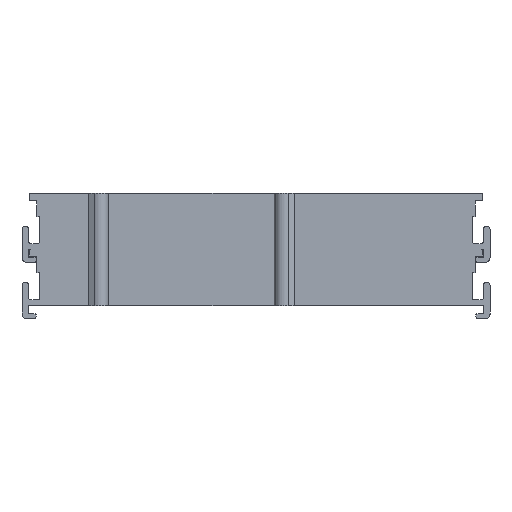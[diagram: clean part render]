
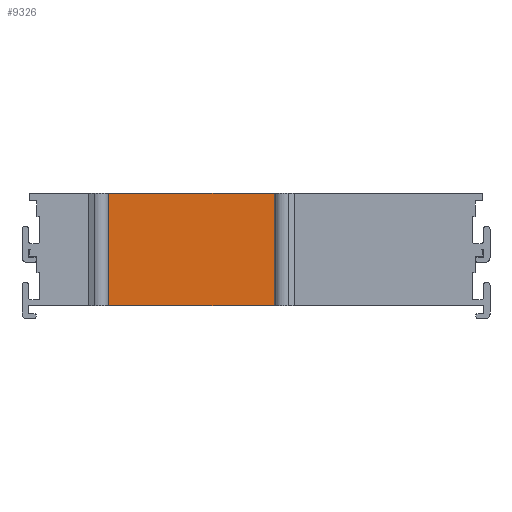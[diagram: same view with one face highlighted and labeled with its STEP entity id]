
A CAD part, front view. The second image highlights one B-rep face of the part: STEP entity #9326.
In plain terms, the highlighted planar face has unit normal (0, -1, 0).
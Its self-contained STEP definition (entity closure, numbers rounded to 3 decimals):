
#334=PLANE('',#10213);
#905=FACE_OUTER_BOUND('',#1419,.T.);
#1419=EDGE_LOOP('',(#8618,#8619,#8620,#8621));
#1775=LINE('',#14229,#2717);
#2055=LINE('',#15004,#2997);
#2361=LINE('',#15876,#3303);
#2362=LINE('',#15878,#3304);
#2717=VECTOR('',#11211,1.);
#2997=VECTOR('',#11967,1.);
#3303=VECTOR('',#12881,1.);
#3304=VECTOR('',#12884,1.);
#4063=VERTEX_POINT('',#14226);
#4064=VERTEX_POINT('',#14228);
#4320=VERTEX_POINT('',#15001);
#4321=VERTEX_POINT('',#15003);
#5122=EDGE_CURVE('',#4064,#4063,#1775,.T.);
#5510=EDGE_CURVE('',#4321,#4320,#2055,.T.);
#5945=EDGE_CURVE('',#4063,#4321,#2361,.T.);
#5946=EDGE_CURVE('',#4064,#4320,#2362,.T.);
#8618=ORIENTED_EDGE('',*,*,#5510,.T.);
#8619=ORIENTED_EDGE('',*,*,#5946,.F.);
#8620=ORIENTED_EDGE('',*,*,#5122,.T.);
#8621=ORIENTED_EDGE('',*,*,#5945,.T.);
#9326=ADVANCED_FACE('',(#905),#334,.T.);
#10213=AXIS2_PLACEMENT_3D('',#15877,#12882,#12883);
#11211=DIRECTION('',(1.,0.,0.));
#11967=DIRECTION('',(-1.,0.,0.));
#12881=DIRECTION('',(0.,0.,1.));
#12882=DIRECTION('center_axis',(0.,-1.,0.));
#12883=DIRECTION('ref_axis',(1.,0.,0.));
#12884=DIRECTION('',(0.,0.,1.));
#14226=CARTESIAN_POINT('',(17.7,0.,0.));
#14228=CARTESIAN_POINT('',(-17.7,0.,0.));
#14229=CARTESIAN_POINT('',(-17.7,0.,0.));
#15001=CARTESIAN_POINT('',(-17.7,0.,24.));
#15003=CARTESIAN_POINT('',(17.7,0.,24.));
#15004=CARTESIAN_POINT('',(-17.7,0.,24.));
#15876=CARTESIAN_POINT('',(17.7,0.,0.));
#15877=CARTESIAN_POINT('Origin',(17.7,0.,0.));
#15878=CARTESIAN_POINT('',(-17.7,0.,0.));
